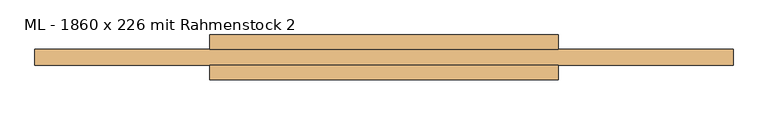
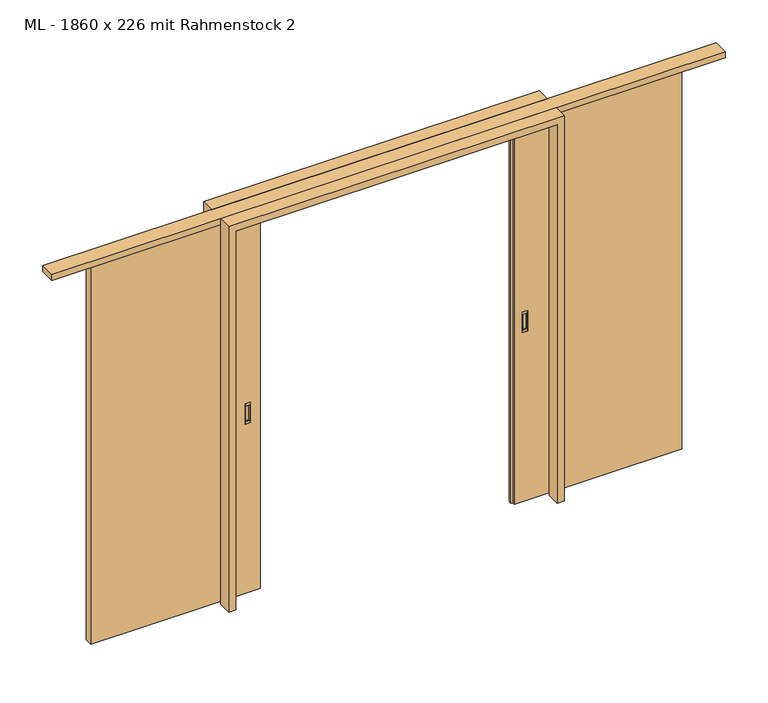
"""IFC4 building model written with IfcOpenShell, lengths in millimetres: door geometry, TU SF 2 - Schiebetüre in Wandtasche : ML - 1860 x 226 mit Rahmenstock 2."""

from ifc_helpers import new_model, si_unit, frame, origin, place, context, project, spatial, polyline, outline, extrude, faceted_brep, source, transform, mapped, element, save


def ml_1860_x_226_mit_rahmenstock_2_204127ef(model_context):
    return source(origin(), model_context, "Body", "SolidModel", [
        faceted_brep([(-1638.1, 22.5, 0.0), (-698.1, 22.5, 0.0), (-698.1, 11.25, 0.0), (-708.1, 9.25, 0.0), (-708.1, -9.25, 0.0), (-698.1, -11.25, 0.0), (-698.1, -22.5, 0.0), (-1638.1, -22.5, 0.0), (-1638.1, 22.5, 2220.0), (-1638.1, -22.5, 2220.0), (-698.1, -22.5, 2220.0), (-753.1, -22.5, 1110.0), (-753.1, -22.5, 990.0), (-783.1, -22.5, 990.0), (-783.1, -22.5, 1110.0), (-698.1, -11.25, 2220.0), (-698.1, 22.5, 2220.0), (-698.1, 11.25, 2220.0), (-783.1, 22.5, 1110.0), (-783.1, 22.5, 990.0), (-753.1, 22.5, 990.0), (-753.1, 22.5, 1110.0), (-708.1, -9.25, 2220.0), (-708.1, 9.25, 2220.0)], [[[0, 1, 2, 3, 4, 5, 6, 7]], [[8, 0, 7, 9]], [[9, 7, 6, 10], [11, 12, 13, 14]], [[6, 5, 15, 10]], [[16, 17, 2, 1]], [[16, 1, 0, 8], [18, 19, 20, 21]], [[18, 21, 11, 14]], [[21, 20, 12, 11]], [[20, 19, 13, 12]], [[14, 13, 19, 18]], [[8, 9, 10, 15, 22, 23, 17, 16]], [[22, 15, 5, 4]], [[4, 3, 23, 22]], [[3, 2, 17, 23]]]),
        extrude(outline(polyline([(-778.1, -14.5), (-778.1, 14.5), (-758.1, 14.5), (-758.1, -14.5), (-778.1, -14.5)])), frame((0.0, 0.0, 1005.0), z_axis=(0.0, 0.0, 1.0), x_axis=(1.0, 0.0, 0.0)), (0.0, 0.0, 1.0), 90.0),
        extrude(outline(polyline([(1110.0, -783.1), (990.0, -783.1), (990.0, -753.1), (1110.0, -753.1), (1110.0, -783.1)]), holes=[polyline([(1005.0, -778.1), (1095.0, -778.1), (1095.0, -758.1), (1005.0, -758.1), (1005.0, -778.1)])]), frame((0.0, -22.5, 0.0), z_axis=(0.0, 1.0, 0.0), x_axis=(0.0, 0.0, 1.0)), (0.0, 0.0, 1.0), 45.0),
        faceted_brep([(1638.1, 22.6159714, 0.0), (1638.1, -22.3840286, 0.0), (708.1, -22.3840286, 0.0), (708.1, -11.1340286, 0.0), (698.1, -9.1340286, 0.0), (698.1, 9.3659714, 0.0), (708.1, 11.3659714, 0.0), (708.1, 22.6159714, 0.0), (1638.1, 22.6159714, 2220.0), (1638.1, -22.3840286, 2220.0), (708.1, -22.3840286, 2220.0), (753.1, -22.3840286, 1110.0), (783.1, -22.3840286, 1110.0), (783.1, -22.3840286, 990.0), (753.1, -22.3840286, 990.0), (708.1, -11.1340286, 2220.0), (698.1, -9.1340286, 2220.0), (698.1, 9.3659714, 2220.0), (708.1, 11.3659714, 2220.0), (708.1, 22.6159714, 2220.0), (783.1, 22.6159714, 1110.0), (753.1, 22.6159714, 1110.0), (753.1, 22.6159714, 990.0), (783.1, 22.6159714, 990.0)], [[[0, 1, 2, 3, 4, 5, 6, 7]], [[8, 9, 1, 0]], [[1, 9, 10, 2], [11, 12, 13, 14]], [[15, 3, 2, 10]], [[3, 15, 16, 4]], [[16, 17, 5, 4]], [[18, 6, 5, 17]], [[6, 18, 19, 7]], [[8, 0, 7, 19], [20, 21, 22, 23]], [[20, 12, 11, 21]], [[21, 11, 14, 22]], [[22, 14, 13, 23]], [[12, 20, 23, 13]], [[9, 8, 19, 18, 17, 16, 15, 10]]]),
        extrude(outline(polyline([(778.1, -14.3840286), (758.1, -14.3840286), (758.1, 14.6159714), (778.1, 14.6159714), (778.1, -14.3840286)])), frame((0.0, 0.0, 1005.0), z_axis=(0.0, 0.0, 1.0), x_axis=(1.0, 0.0, 0.0)), (0.0, 0.0, 1.0), 90.0),
        extrude(outline(polyline([(1110.0, 783.1), (1110.0, 753.1), (990.0, 753.1), (990.0, 783.1), (1110.0, 783.1)]), holes=[polyline([(1005.0, 778.1), (1005.0, 758.1), (1095.0, 758.1), (1095.0, 778.1), (1005.0, 778.1)])]), frame((0.0, -22.3840286, 0.0), z_axis=(0.0, 1.0, 0.0), x_axis=(0.0, 0.0, 1.0)), (0.0, 0.0, 1.0), 45.0),
        extrude(outline(polyline([(2260.0, -930.0), (0.0, -930.0), (0.0, -890.0), (2220.0, -890.0), (2220.0, 890.0), (0.0, 890.0), (0.0, 930.0), (2260.0, 930.0), (2260.0, -930.0)])), frame((0.0, -119.8840286, 0.0), z_axis=(0.0, 1.0, 0.0), x_axis=(0.0, 0.0, 1.0)), (0.0, 0.0, 1.0), 77.3840286),
        extrude(outline(polyline([(2260.0, -930.0), (0.0, -930.0), (0.0, -890.0), (2220.0, -890.0), (2220.0, 890.0), (0.0, 890.0), (0.0, 930.0), (2260.0, 930.0), (2260.0, -930.0)])), frame((0.0, 42.5, 0.0), z_axis=(0.0, 1.0, 0.0), x_axis=(0.0, 0.0, 1.0)), (0.0, 0.0, 1.0), 77.6159714),
        extrude(outline(polyline([(1865.0, 42.5), (1865.0, -42.5), (-1865.0, -42.5), (-1865.0, 42.5), (1865.0, 42.5)])), frame((0.0, 0.0, 2225.0), z_axis=(0.0, 0.0, 1.0), x_axis=(1.0, 0.0, 0.0)), (0.0, 0.0, 1.0), 35.0),
    ])


if __name__ == "__main__":
    model = new_model("IFC4")
    model_context = context("Model", 3, world=origin())
    ifc_project = project(units=[si_unit("LENGTHUNIT", "METRE", prefix="MILLI")], contexts=[model_context])
    site = spatial("IfcSite", under=ifc_project)
    building = spatial("IfcBuilding", under=site)
    placement = place(None, origin())
    ml_1860_x_226_mit_rahmenstock_2_shape = ml_1860_x_226_mit_rahmenstock_2_204127ef(model_context)
    element("IfcDoor", 1, ObjectType="TU SF 2 - Schiebetüre in Wandtasche : ML - 1860 x 226 mit Rahmenstock 2", at=placement, inside=building, context=model_context, shape_type="MappedRepresentation", body=[
        mapped(ml_1860_x_226_mit_rahmenstock_2_shape, transform((0.0, 0.0, 0.0), x_axis=(1.0, 0.0, 0.0), y_axis=(0.0, 1.0, 0.0), z_axis=(0.0, 0.0, 1.0))),
    ])
    save(model, "model.ifc")
